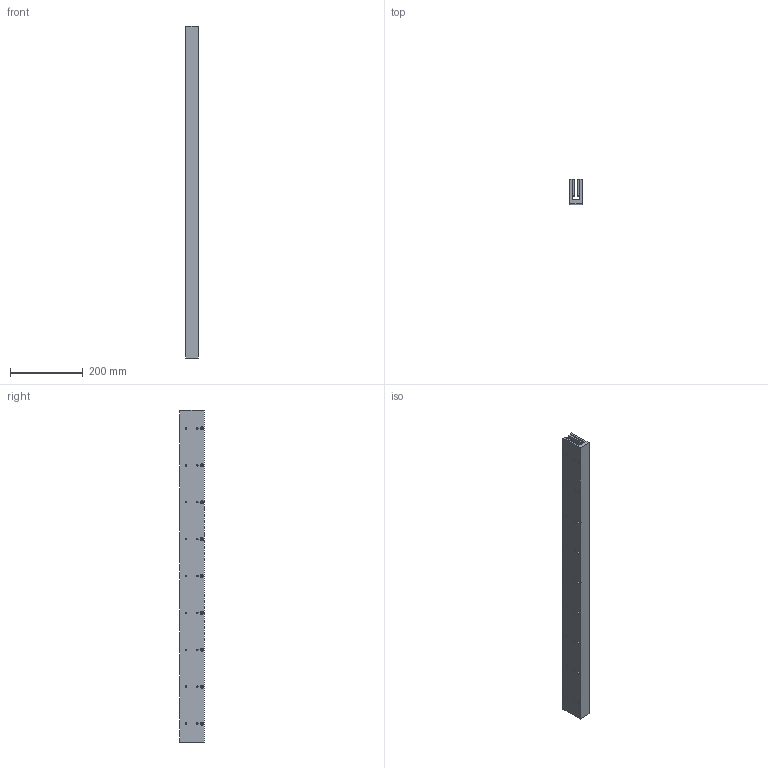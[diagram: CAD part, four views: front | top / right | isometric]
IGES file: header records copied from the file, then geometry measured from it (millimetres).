
Global section: file name: No Iges File Name specified; native system: Autodesk Inventor 2009; preprocessor: AutoDesk Inventor Iges Exporter R2009; author: je17857; date: 20091116.111543; units: inch
Bounding box: 34.29 x 67.31 x 914.4 mm (x, y, z)
Volume: 1367176.6 mm3; surface area: 344535.4 mm2
Topology: 1 solids, 1 shells, 466 faces, 1122 edges, 748 vertices
Faces by surface type: plane 322, bspline 144
